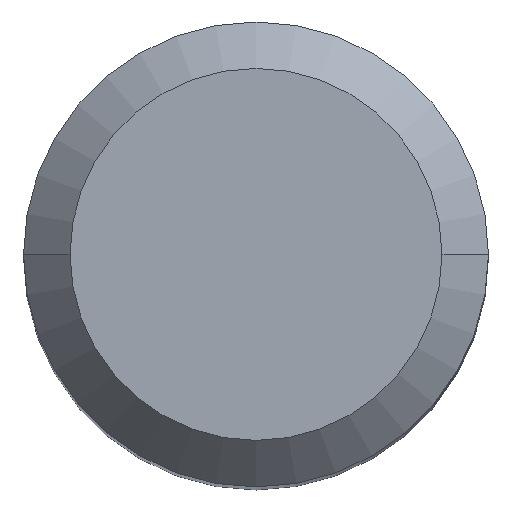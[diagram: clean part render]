
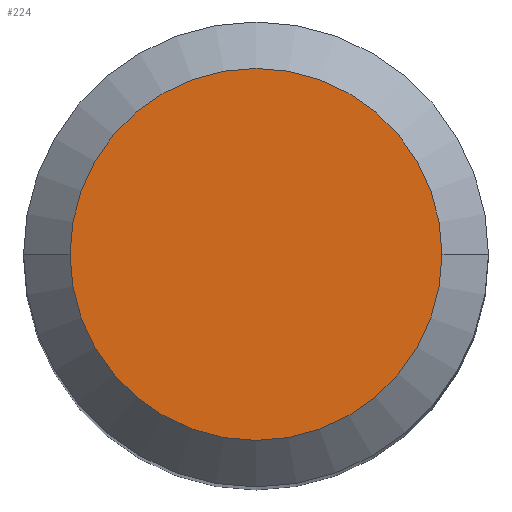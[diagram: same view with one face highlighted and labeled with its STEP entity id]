
A CAD part, top view. The second image highlights one B-rep face of the part: STEP entity #224.
In plain terms, the highlighted planar face has unit normal (0, 0, 1).
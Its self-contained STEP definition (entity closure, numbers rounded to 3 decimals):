
#8 = CARTESIAN_POINT ( 'NONE',  ( -4.8, 0., 0. ) ) ;
#24 = DIRECTION ( 'NONE',  ( 0., 0., -1. ) ) ;
#68 = AXIS2_PLACEMENT_3D ( 'NONE', #447, #215, #312 ) ;
#92 = AXIS2_PLACEMENT_3D ( 'NONE', #342, #24, #582 ) ;
#154 = EDGE_CURVE ( 'NONE', #161, #382, #246, .T. ) ;
#161 = VERTEX_POINT ( 'NONE', #587 ) ;
#215 = DIRECTION ( 'NONE',  ( 0., 0., 1. ) ) ;
#216 = EDGE_CURVE ( 'NONE', #382, #161, #363, .T. ) ;
#224 = ADVANCED_FACE ( 'NONE', ( #499 ), #442, .T. ) ;
#246 = CIRCLE ( 'NONE', #92, 4.8 ) ;
#289 = CARTESIAN_POINT ( 'NONE',  ( 0., 0., 0. ) ) ;
#312 = DIRECTION ( 'NONE',  ( 1., 0., 0. ) ) ;
#342 = CARTESIAN_POINT ( 'NONE',  ( 0., 0., 0. ) ) ;
#352 = AXIS2_PLACEMENT_3D ( 'NONE', #289, #386, #575 ) ;
#363 = CIRCLE ( 'NONE', #352, 4.8 ) ;
#382 = VERTEX_POINT ( 'NONE', #8 ) ;
#386 = DIRECTION ( 'NONE',  ( 0., 0., -1. ) ) ;
#395 = ORIENTED_EDGE ( 'NONE', *, *, #216, .F. ) ;
#442 = PLANE ( 'NONE',  #68 ) ;
#447 = CARTESIAN_POINT ( 'NONE',  ( 0., 4.8, 0. ) ) ;
#499 = FACE_OUTER_BOUND ( 'NONE', #576, .T. ) ;
#529 = ORIENTED_EDGE ( 'NONE', *, *, #154, .F. ) ;
#575 = DIRECTION ( 'NONE',  ( -1., 0., 0. ) ) ;
#576 = EDGE_LOOP ( 'NONE', ( #395, #529 ) ) ;
#582 = DIRECTION ( 'NONE',  ( -1., 0., 0. ) ) ;
#587 = CARTESIAN_POINT ( 'NONE',  ( 4.8, 0., 0. ) ) ;
